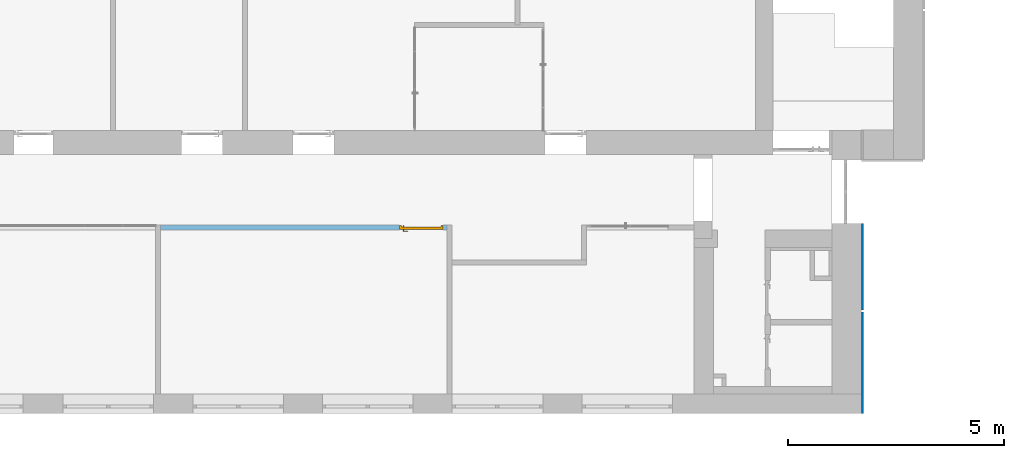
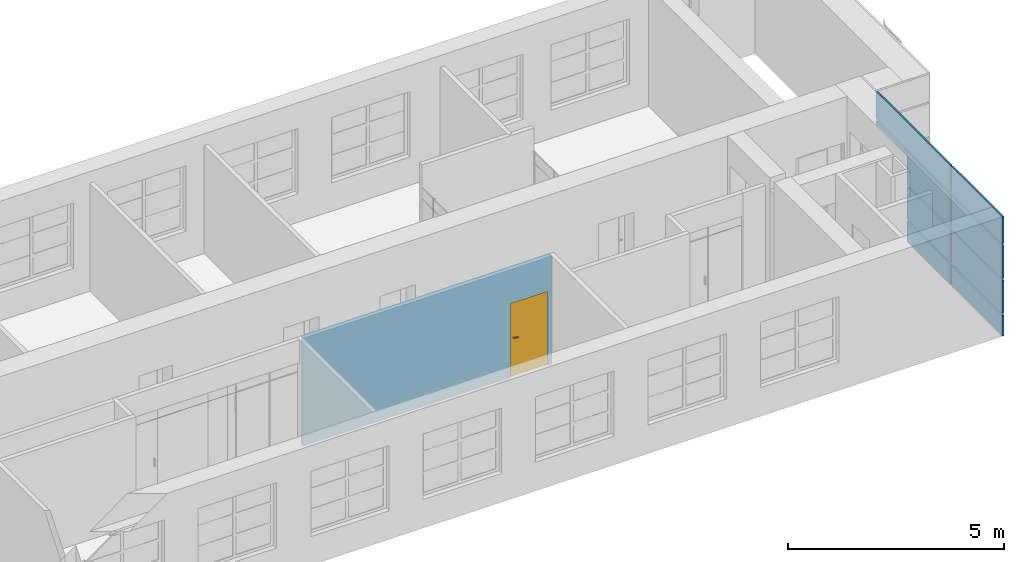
# One storey, part 64 of 66: 1 door, 1 wall, 1 opening, plus 1 element that does not belong to this part.
"""IFC2X3 building model written with IfcOpenShell, lengths in millimetres."""

from ifc_helpers import new_model, entity, si_unit, converted_unit, derived_unit, direction, frame, frame_2d, origin, place, context, subcontext, project, spatial, rectangle, extrude, faceted_brep, source, transform, mapped, material, material_list, layer, layer_set, layer_usage, type_object, type_shapes, element, fill, save


model = new_model("IFC2X3")

# Units and contexts
model_context = context("Model", 3, precision=0.01, world=origin(), true_north=direction((6.12303176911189e-17, 1.0)))
body_context = subcontext(model_context, "Body", "Model", "MODEL_VIEW")
ifc_project = project(units=[si_unit("LENGTHUNIT", "METRE", prefix="MILLI"), si_unit("AREAUNIT", "SQUARE_METRE"), si_unit("VOLUMEUNIT", "CUBIC_METRE"), converted_unit("PLANEANGLEUNIT", "DEGREE", entity("IfcRatioMeasure", 0.0174532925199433), si_unit("PLANEANGLEUNIT", "RADIAN"), dimensions=[0, 0, 0, 0, 0, 0, 0]), si_unit("MASSUNIT", "GRAM", prefix="KILO"), derived_unit("MASSDENSITYUNIT", [(si_unit("MASSUNIT", "GRAM", prefix="KILO"), 1), (si_unit("LENGTHUNIT", "METRE"), -3)]), si_unit("TIMEUNIT", "SECOND"), si_unit("FREQUENCYUNIT", "HERTZ"), si_unit("THERMODYNAMICTEMPERATUREUNIT", "DEGREE_CELSIUS"), derived_unit("THERMALTRANSMITTANCEUNIT", [(si_unit("MASSUNIT", "GRAM", prefix="KILO"), 1), (si_unit("THERMODYNAMICTEMPERATUREUNIT", "KELVIN"), -1), (si_unit("TIMEUNIT", "SECOND"), -3)]), derived_unit("VOLUMETRICFLOWRATEUNIT", [(si_unit("LENGTHUNIT", "METRE"), 3), (si_unit("TIMEUNIT", "SECOND"), -1)]), si_unit("ELECTRICCURRENTUNIT", "AMPERE"), si_unit("ELECTRICVOLTAGEUNIT", "VOLT"), si_unit("POWERUNIT", "WATT"), si_unit("FORCEUNIT", "NEWTON", prefix="KILO"), si_unit("ILLUMINANCEUNIT", "LUX"), si_unit("LUMINOUSFLUXUNIT", "LUMEN"), si_unit("LUMINOUSINTENSITYUNIT", "CANDELA"), derived_unit("USERDEFINED", [(si_unit("MASSUNIT", "GRAM", prefix="KILO"), -1), (si_unit("LENGTHUNIT", "METRE"), -2), (si_unit("TIMEUNIT", "SECOND"), 3), (si_unit("LUMINOUSFLUXUNIT", "LUMEN"), 1)]), derived_unit("LINEARVELOCITYUNIT", [(si_unit("LENGTHUNIT", "METRE"), 1), (si_unit("TIMEUNIT", "SECOND"), -1)]), si_unit("PRESSUREUNIT", "PASCAL"), derived_unit("USERDEFINED", [(si_unit("LENGTHUNIT", "METRE"), -2), (si_unit("MASSUNIT", "GRAM", prefix="KILO"), 1), (si_unit("TIMEUNIT", "SECOND"), -2)])], contexts=[model_context])

# Site, building, storey
site_placement = place(None, frame((-151.875543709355, 2715.0, 0.0)))
site = spatial("IfcSite", under=ifc_project, at=site_placement, Name="Surface", CompositionType="ELEMENT")
building_placement = place(site_placement, origin())
building = spatial("IfcBuilding", under=site, at=building_placement, CompositionType="ELEMENT")
storey_placement = place(building_placement, frame((0.0, 0.0, 3350.0)))
storey = spatial("IfcBuildingStorey", under=building, at=storey_placement, Name="2 korrus", CompositionType="ELEMENT", Elevation=3350.00000000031)

# Wall, opening, door
ifc_material_1 = material(Name="__Kips GN13_tava")
ifc_layer_1 = layer(ifc_material_1, 12.5)
ifc_layer_2 = layer(ifc_material_1, 12.5)
ifc_material_2 = material(Name="__Soojustus EPS")
ifc_layer_3 = layer(ifc_material_2, 66.0)
ifc_layer_4 = layer(ifc_material_1, 12.5)
ifc_layer_5 = layer(ifc_material_1, 12.5)
ifc_layer_set = layer_set([ifc_layer_1, ifc_layer_2, ifc_layer_3, ifc_layer_4, ifc_layer_5], Name="Basic Wall:SS-3*_Kipssein EI-60")
ifc_layer_usage = layer_usage(ifc_layer_set, "AXIS2", "NEGATIVE", 58.0)
wall_type_1 = type_object("IfcWallType", Name="Basic Wall:SS-3*_Kipssein EI-60", PredefinedType="STANDARD", material=ifc_layer_set)
wall_1_placement = place(storey_placement, frame((24823.564726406, 4307.04493399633, 0.0), z_axis=(0.0, 0.0, 1.0), x_axis=(-1.0, 0.0, 0.0)))
wall_1 = element("IfcWallStandardCase", 1, at=wall_1_placement, inside=storey, type_object=wall_type_1, material=ifc_layer_usage, Name="Basic Wall:SS-3*_Kipssein EI-60", ObjectType="Basic Wall:SS-3*_Kipssein EI-60", context=body_context, shape_type="SweptSolid", body=[
    extrude(rectangle(XDim=6641.00000000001, YDim=116.0, at=frame_2d((3320.5, 2.1316282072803e-14), x_axis=(-1.0, 0.0))), origin(), (0.0, 0.0, 1.0), 3050.0),
])
opening_placement = place(wall_1_placement, frame((100.0, -58.0, 0.0)))
opening = element("IfcOpeningElement", 2, at=opening_placement, cuts=wall_1, Name="Ühepoolsed:SU-09:1", ObjectType="Opening", context=body_context, shape_type="SweptSolid", body=[
    extrude(rectangle(XDim=2099.99999999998, YDim=1000.0, at=frame_2d((1049.99999999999, 500.0), x_axis=(1.0, 0.0))), frame((0.0, 0.0, 0.0), z_axis=(0.0, 1.0, 0.0), x_axis=(0.0, 0.0, 1.0)), (0.0, 0.0, 1.0), 116.0),
])
ifc_material_3 = material(Name="_Alumiiniumprofiil - must")
ifc_material_4 = material(Name="__Uks_hele tamm")
ifc_material_list_1 = material_list([ifc_material_3, ifc_material_4])
ifc_material_list_2 = material_list([ifc_material_3, ifc_material_4])
door_style = type_object("IfcDoorStyle", Name="SU-09", ConstructionType="NOTDEFINED", OperationType="FOLDING_TO_LEFT", ParameterTakesPrecedence=False, Sizeable=False, material=ifc_material_list_2)
shared_shape = source(origin(), body_context, "Body", "Brep", [
    faceted_brep([(900.0, 6.0, 1112.5), (805.0, 6.0, 1112.5), (805.0, 1.0, 1112.5), (925.0, 1.0, 1112.5), (925.0, 44.0, 1112.5), (900.0, 44.0, 1112.5), (900.0, 6.0, 1087.5), (900.0, 44.0, 1087.5), (925.0, 44.0, 1087.5), (925.0, 1.0, 1087.5), (805.0, 1.0, 1087.5), (805.0, 6.0, 1087.5)], [[[0, 1, 2, 3, 4, 5]], [[6, 7, 8, 9, 10, 11]], [[5, 7, 6, 0]], [[4, 8, 7, 5]], [[3, 9, 8, 4]], [[2, 10, 9, 3]], [[1, 11, 10, 2]], [[0, 6, 11, 1]]]),
    faceted_brep([(887.500000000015, 44.0, 1137.5), (937.500000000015, 44.0, 1137.5), (937.500000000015, 46.0, 1137.5), (887.500000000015, 46.0, 1137.5), (887.500000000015, 44.0, 1017.5), (887.500000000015, 46.0, 1017.5), (937.500000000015, 46.0, 1017.5), (937.500000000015, 44.0, 1017.5)], [[[0, 1, 2, 3]], [[4, 5, 6, 7]], [[3, 5, 4, 0]], [[2, 6, 5, 3]], [[1, 7, 6, 2]], [[0, 4, 7, 1]]]),
    faceted_brep([(900.0, 136.0, 1112.5), (900.0, 98.0, 1112.5), (925.0, 98.0, 1112.5), (925.0, 141.0, 1112.5), (805.0, 141.0, 1112.5), (805.0, 136.0, 1112.5), (900.0, 136.0, 1087.5), (805.0, 136.0, 1087.5), (805.0, 141.0, 1087.5), (925.0, 141.0, 1087.5), (925.0, 98.0, 1087.5), (900.0, 98.0, 1087.5)], [[[0, 1, 2, 3, 4, 5]], [[6, 7, 8, 9, 10, 11]], [[1, 0, 6, 11]], [[2, 1, 11, 10]], [[3, 2, 10, 9]], [[4, 3, 9, 8]], [[5, 4, 8, 7]], [[0, 5, 7, 6]]]),
    faceted_brep([(887.500000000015, 98.0, 1137.5), (887.500000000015, 96.0, 1137.5), (937.500000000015, 96.0, 1137.5), (937.500000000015, 98.0, 1137.5), (887.500000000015, 98.0, 1017.5), (937.500000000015, 98.0, 1017.5), (937.500000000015, 96.0, 1017.5), (887.500000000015, 96.0, 1017.5)], [[[0, 1, 2, 3]], [[4, 5, 6, 7]], [[1, 0, 4, 7]], [[2, 1, 7, 6]], [[3, 2, 6, 5]], [[0, 3, 5, 4]]]),
    faceted_brep([(0.0, 6.0, 0.0), (0.0, 96.0, 0.0), (25.0, 96.0, 0.0), (25.0, 46.0, 0.0), (40.0, 46.0, 0.0), (40.0, 6.0, 0.0), (40.0, 6.0, 2060.0), (960.0, 6.0, 2060.0), (960.0, 6.0, 0.0), (1000.0, 6.0, 0.0), (1000.0, 6.0, 2100.0), (0.0, 6.0, 2100.0), (40.0, 46.0, 2060.0), (25.0, 46.0, 2075.0), (975.0, 46.0, 2075.0), (975.0, 46.0, 0.0), (960.0, 46.0, 0.0), (960.0, 46.0, 2060.0), (25.0, 96.0, 2075.0), (0.0, 96.0, 2100.0), (1000.0, 96.0, 2100.0), (1000.0, 96.0, 0.0), (975.0, 96.0, 0.0), (975.0, 96.0, 2075.0)], [[[0, 1, 2, 3, 4, 5]], [[5, 6, 7, 8, 9, 10, 11, 0]], [[4, 12, 6, 5]], [[3, 13, 14, 15, 16, 17, 12, 4]], [[2, 18, 13, 3]], [[1, 19, 20, 21, 22, 23, 18, 2]], [[0, 11, 19, 1]], [[9, 21, 20, 10]], [[8, 16, 15, 22, 21, 9]], [[7, 17, 16, 8]], [[14, 23, 22, 15]], [[6, 12, 17, 7]], [[13, 18, 23, 14]], [[10, 20, 19, 11]]]),
    faceted_brep([(975.0, 46.0, 2075.0), (25.0, 46.0, 2075.0), (25.0, 46.0, 20.0), (975.0, 46.0, 20.0), (975.0, 96.0, 2075.0), (975.0, 96.0, 20.0), (25.0, 96.0, 20.0), (25.0, 96.0, 2075.0)], [[[0, 1, 2, 3]], [[4, 5, 6, 7]], [[3, 5, 4, 0]], [[2, 6, 5, 3]], [[1, 7, 6, 2]], [[0, 4, 7, 1]]]),
])
type_shapes(door_style, [shared_shape])
door_placement = place(opening_placement, origin())
door = element("IfcDoor", 3, at=door_placement, inside=storey, type_object=door_style, material=ifc_material_list_1, Name="Ühepoolsed:SU-09", ObjectType="SU-09", OverallHeight=2099.99999999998, OverallWidth=999.999999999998, context=body_context, shape_type="MappedRepresentation", body=[
    mapped(shared_shape, transform((0.0, 0.0, 0.0), scale=1.0)),
])
fill(opening, door)

# Wall
ifc_material_5 = material(Name="Steel/Aluminium")
wall_type_2 = type_object("IfcWallType", Name="fassaad7.2:fassaad7.2", PredefinedType="NOTDEFINED", material=ifc_material_5)
wall_2_placement = place(storey_placement, frame((34420.6162682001, 1.0, 0.00203353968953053), z_axis=(0.0, 0.0, 1.0), x_axis=(0.0, 1.0, 0.0)))
element("IfcWall", 4, at=wall_2_placement, inside=storey, type_object=wall_type_2, material=ifc_material_5, Name="fassaad7.2:fassaad7.2", ObjectType="fassaad7.2:fassaad7.2", context=body_context, shape_type="Brep", body=[
    faceted_brep([(2405.0, -50.0, 585.0), (2405.0, -50.0, 0.0), (4401.0, -50.0, 0.0), (4401.0, -50.0, 585.0), (4401.0, 0.0, 585.0), (2405.0, 0.0, 585.0), (4401.0, 0.0, 0.0), (2405.0, 0.0, 0.0)], [[[0, 1, 2, 3]], [[3, 4, 5, 0]], [[2, 6, 4, 3]], [[1, 7, 6, 2]], [[0, 5, 7, 1]], [[5, 4, 6, 7]]]),
    faceted_brep([(0.0, -50.0, 0.0), (0.0, 0.0, 0.0), (2355.0, 0.0, 0.0), (2355.0, -50.0, 0.0), (0.0, -50.0, 585.0), (0.0, 0.0, 585.0), (2355.0, -50.0, 585.0), (2355.0, 0.0, 585.0)], [[[0, 1, 2, 3]], [[4, 5, 1, 0]], [[6, 7, 5, 4]], [[3, 2, 7, 6]], [[2, 1, 5, 7]], [[3, 6, 4, 0]]]),
    faceted_brep([(2355.0, -50.0, 635.0), (2355.0, 0.0, 635.0), (2355.0, 0.0, 1570.0), (2355.0, -50.0, 1570.0), (0.0, -50.0, 635.0), (0.0, 0.0, 635.0), (0.0, -50.0, 1570.0), (0.0, 0.0, 1570.0)], [[[0, 1, 2, 3]], [[4, 5, 1, 0]], [[6, 7, 5, 4]], [[3, 2, 7, 6]], [[7, 2, 1, 5]], [[6, 4, 0, 3]]]),
    faceted_brep([(2405.0, -50.0, 1570.0), (2405.0, 0.0, 1570.0), (2405.0, 0.0, 635.0), (2405.0, -50.0, 635.0), (4401.0, -50.0, 635.0), (4401.0, 0.0, 635.0), (4401.0, 0.0, 1570.0), (4401.0, -50.0, 1570.0)], [[[0, 1, 2, 3]], [[4, 5, 6, 7]], [[3, 2, 5, 4]], [[7, 6, 1, 0]], [[2, 1, 6, 5]], [[3, 4, 7, 0]]]),
    faceted_brep([(5840.0, -50.0, 3380.0), (5840.0, 0.0, 3380.0), (2405.0, 0.0, 3380.0), (2405.0, -50.0, 3380.0), (5840.0, -50.0, 2605.0), (5840.0, 0.0, 2605.0), (2405.0, -50.0, 2605.0), (2405.0, 0.0, 2605.0)], [[[0, 1, 2, 3]], [[4, 5, 1, 0]], [[6, 7, 5, 4]], [[3, 2, 7, 6]], [[2, 1, 5, 7]], [[3, 6, 4, 0]]]),
    faceted_brep([(2355.0, -50.0, 2555.0), (2355.0, 0.0, 2555.0), (0.0, 0.0, 2555.0), (0.0, -50.0, 2555.0), (2355.0, -50.0, 1620.0), (2355.0, 0.0, 1620.0), (0.0, 0.0, 1620.0), (0.0, -50.0, 1620.0)], [[[0, 1, 2, 3]], [[4, 5, 1, 0]], [[3, 2, 6, 7]], [[7, 6, 5, 4]], [[2, 1, 5, 6]], [[3, 7, 4, 0]]]),
    faceted_brep([(2405.0, -50.0, 2555.0), (2405.0, 0.0, 2555.0), (2405.0, 0.0, 1620.0), (2405.0, -50.0, 1620.0), (5840.0, -50.0, 2555.0), (5840.0, 0.0, 2555.0), (5840.0, -50.0, 2450.0), (5840.0, 0.0, 2450.0), (4401.0, -50.0, 2450.0), (4401.0, 0.0, 2450.0), (4401.0, -50.0, 1620.0), (4401.0, 0.0, 1620.0)], [[[0, 1, 2, 3]], [[4, 5, 1, 0]], [[6, 7, 5, 4]], [[8, 9, 7, 6]], [[10, 11, 9, 8]], [[3, 2, 11, 10]], [[2, 1, 5, 7, 9, 11]], [[3, 10, 8, 6, 4, 0]]]),
    faceted_brep([(0.0, -50.0, 2605.0), (0.0, 0.0, 2605.0), (2355.0, 0.0, 2605.0), (2355.0, -50.0, 2605.0), (0.0, -50.0, 3380.0), (0.0, 0.0, 3380.0), (2355.0, -50.0, 3380.0), (2355.0, 0.0, 3380.0)], [[[0, 1, 2, 3]], [[4, 5, 1, 0]], [[6, 7, 5, 4]], [[3, 2, 7, 6]], [[2, 1, 5, 7]], [[3, 6, 4, 0]]]),
])

save(model, "model.ifc")
